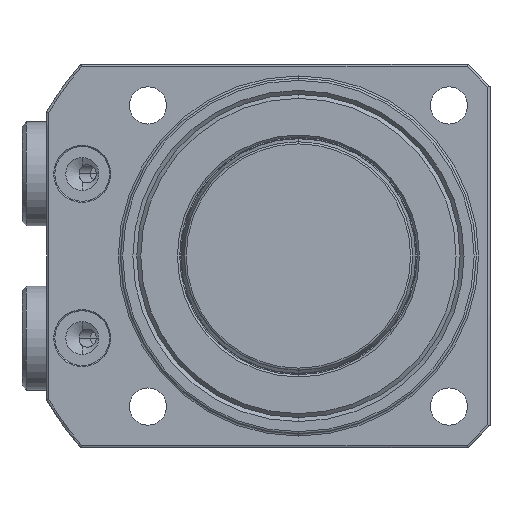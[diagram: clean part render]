
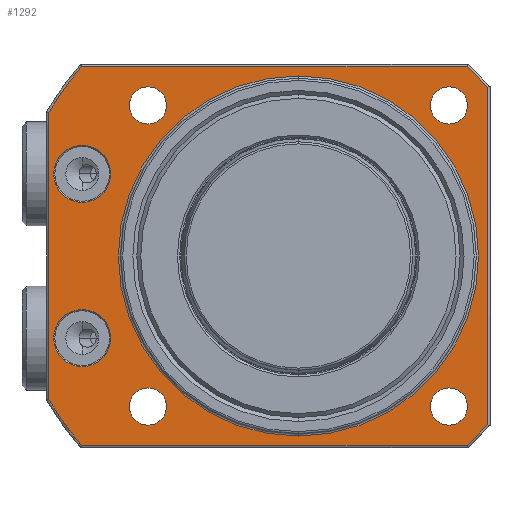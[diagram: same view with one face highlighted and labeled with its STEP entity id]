
A CAD part, front view. The second image highlights one B-rep face of the part: STEP entity #1292.
In plain terms, the highlighted planar face has unit normal (0, -1, 0) as drawn and (1, 0, 0) by its records, which use the part's own axes.
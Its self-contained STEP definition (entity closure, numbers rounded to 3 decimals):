
#909=PLANE('',#4691);
#949=FACE_BOUND('',#1773,.T.);
#950=FACE_BOUND('',#1774,.T.);
#951=FACE_BOUND('',#1775,.T.);
#952=FACE_BOUND('',#1776,.T.);
#953=FACE_BOUND('',#1777,.T.);
#954=FACE_BOUND('',#1778,.T.);
#955=FACE_BOUND('',#1779,.T.);
#956=FACE_BOUND('',#1780,.T.);
#1292=ADVANCED_FACE('',(#949,#950,#951,#952,#953,#954,#955,#956),#909,.F.);
#1773=EDGE_LOOP('',(#2981,#2982));
#1774=EDGE_LOOP('',(#2983,#2984));
#1775=EDGE_LOOP('',(#2985,#2986,#2987,#2988,#2989,#2990,#2991,#2992));
#1776=EDGE_LOOP('',(#2993,#2994));
#1777=EDGE_LOOP('',(#2995,#2996));
#1778=EDGE_LOOP('',(#2997,#2998));
#1779=EDGE_LOOP('',(#2999,#3000));
#1780=EDGE_LOOP('',(#3001,#3002));
#2042=LINE('',#7424,#2243);
#2043=LINE('',#7427,#2244);
#2044=LINE('',#7429,#2245);
#2045=LINE('',#7431,#2246);
#2046=LINE('',#7435,#2247);
#2047=LINE('',#7439,#2248);
#2243=VECTOR('',#5633,1.);
#2244=VECTOR('',#5634,1.);
#2245=VECTOR('',#5635,1.);
#2246=VECTOR('',#5636,1.);
#2247=VECTOR('',#5639,1.);
#2248=VECTOR('',#5642,1.);
#2981=ORIENTED_EDGE('',*,*,#3905,.T.);
#2982=ORIENTED_EDGE('',*,*,#4044,.T.);
#2983=ORIENTED_EDGE('',*,*,#3901,.T.);
#2984=ORIENTED_EDGE('',*,*,#4045,.T.);
#2985=ORIENTED_EDGE('',*,*,#4046,.T.);
#2986=ORIENTED_EDGE('',*,*,#4047,.T.);
#2987=ORIENTED_EDGE('',*,*,#4048,.T.);
#2988=ORIENTED_EDGE('',*,*,#4049,.T.);
#2989=ORIENTED_EDGE('',*,*,#4050,.T.);
#2990=ORIENTED_EDGE('',*,*,#4051,.T.);
#2991=ORIENTED_EDGE('',*,*,#4052,.T.);
#2992=ORIENTED_EDGE('',*,*,#4053,.T.);
#2993=ORIENTED_EDGE('',*,*,#4054,.T.);
#2994=ORIENTED_EDGE('',*,*,#3911,.T.);
#2995=ORIENTED_EDGE('',*,*,#4055,.T.);
#2996=ORIENTED_EDGE('',*,*,#3997,.T.);
#2997=ORIENTED_EDGE('',*,*,#4056,.T.);
#2998=ORIENTED_EDGE('',*,*,#4005,.T.);
#2999=ORIENTED_EDGE('',*,*,#4057,.T.);
#3000=ORIENTED_EDGE('',*,*,#4013,.T.);
#3001=ORIENTED_EDGE('',*,*,#4058,.T.);
#3002=ORIENTED_EDGE('',*,*,#4021,.T.);
#3478=VERTEX_POINT('',#6896);
#3479=VERTEX_POINT('',#6898);
#3482=VERTEX_POINT('',#6905);
#3483=VERTEX_POINT('',#6907);
#3488=VERTEX_POINT('',#6920);
#3489=VERTEX_POINT('',#6921);
#3558=VERTEX_POINT('',#7266);
#3559=VERTEX_POINT('',#7267);
#3566=VERTEX_POINT('',#7293);
#3567=VERTEX_POINT('',#7294);
#3574=VERTEX_POINT('',#7320);
#3575=VERTEX_POINT('',#7321);
#3582=VERTEX_POINT('',#7347);
#3583=VERTEX_POINT('',#7348);
#3594=VERTEX_POINT('',#7425);
#3595=VERTEX_POINT('',#7426);
#3596=VERTEX_POINT('',#7428);
#3597=VERTEX_POINT('',#7430);
#3598=VERTEX_POINT('',#7432);
#3599=VERTEX_POINT('',#7434);
#3600=VERTEX_POINT('',#7436);
#3601=VERTEX_POINT('',#7438);
#3901=EDGE_CURVE('',#3479,#3478,#4246,.T.);
#3905=EDGE_CURVE('',#3483,#3482,#4248,.T.);
#3911=EDGE_CURVE('',#3488,#3489,#4253,.T.);
#3997=EDGE_CURVE('',#3558,#3559,#4290,.T.);
#4005=EDGE_CURVE('',#3566,#3567,#4293,.T.);
#4013=EDGE_CURVE('',#3574,#3575,#4296,.T.);
#4021=EDGE_CURVE('',#3582,#3583,#4299,.T.);
#4044=EDGE_CURVE('',#3482,#3483,#4309,.T.);
#4045=EDGE_CURVE('',#3478,#3479,#4310,.T.);
#4046=EDGE_CURVE('',#3594,#3595,#2042,.T.);
#4047=EDGE_CURVE('',#3595,#3596,#2043,.T.);
#4048=EDGE_CURVE('',#3596,#3597,#2044,.T.);
#4049=EDGE_CURVE('',#3597,#3598,#2045,.T.);
#4050=EDGE_CURVE('',#3598,#3599,#4311,.T.);
#4051=EDGE_CURVE('',#3599,#3600,#2046,.T.);
#4052=EDGE_CURVE('',#3600,#3601,#4312,.T.);
#4053=EDGE_CURVE('',#3601,#3594,#2047,.T.);
#4054=EDGE_CURVE('',#3489,#3488,#4313,.T.);
#4055=EDGE_CURVE('',#3559,#3558,#4314,.T.);
#4056=EDGE_CURVE('',#3567,#3566,#4315,.T.);
#4057=EDGE_CURVE('',#3575,#3574,#4316,.T.);
#4058=EDGE_CURVE('',#3583,#3582,#4317,.T.);
#4246=CIRCLE('',#4582,5.2);
#4248=CIRCLE('',#4585,5.2);
#4253=CIRCLE('',#4592,32.9);
#4290=CIRCLE('',#4651,3.4);
#4293=CIRCLE('',#4656,3.4);
#4296=CIRCLE('',#4661,3.4);
#4299=CIRCLE('',#4666,3.4);
#4309=CIRCLE('',#4682,5.2);
#4310=CIRCLE('',#4683,5.2);
#4311=CIRCLE('',#4684,52.6);
#4312=CIRCLE('',#4685,52.6);
#4313=CIRCLE('',#4686,32.9);
#4314=CIRCLE('',#4687,3.4);
#4315=CIRCLE('',#4688,3.4);
#4316=CIRCLE('',#4689,3.4);
#4317=CIRCLE('',#4690,3.4);
#4582=AXIS2_PLACEMENT_3D('',#6897,#5368,#5369);
#4585=AXIS2_PLACEMENT_3D('',#6906,#5376,#5377);
#4592=AXIS2_PLACEMENT_3D('',#6919,#5391,#5392);
#4651=AXIS2_PLACEMENT_3D('',#7265,#5549,#5550);
#4656=AXIS2_PLACEMENT_3D('',#7292,#5563,#5564);
#4661=AXIS2_PLACEMENT_3D('',#7319,#5577,#5578);
#4666=AXIS2_PLACEMENT_3D('',#7346,#5591,#5592);
#4682=AXIS2_PLACEMENT_3D('',#7422,#5629,#5630);
#4683=AXIS2_PLACEMENT_3D('',#7423,#5631,#5632);
#4684=AXIS2_PLACEMENT_3D('',#7433,#5637,#5638);
#4685=AXIS2_PLACEMENT_3D('',#7437,#5640,#5641);
#4686=AXIS2_PLACEMENT_3D('',#7440,#5643,#5644);
#4687=AXIS2_PLACEMENT_3D('',#7441,#5645,#5646);
#4688=AXIS2_PLACEMENT_3D('',#7442,#5647,#5648);
#4689=AXIS2_PLACEMENT_3D('',#7443,#5649,#5650);
#4690=AXIS2_PLACEMENT_3D('',#7444,#5651,#5652);
#4691=AXIS2_PLACEMENT_3D('',#7445,#5653,#5654);
#5368=DIRECTION('',(-1.,0.,0.));
#5369=DIRECTION('',(0.,0.,1.));
#5376=DIRECTION('',(-1.,0.,0.));
#5377=DIRECTION('',(0.,0.,1.));
#5391=DIRECTION('',(-1.,0.,0.));
#5392=DIRECTION('',(0.,0.,1.));
#5549=DIRECTION('',(-1.,0.,0.));
#5550=DIRECTION('',(0.,0.,1.));
#5563=DIRECTION('',(-1.,0.,0.));
#5564=DIRECTION('',(0.,0.,1.));
#5577=DIRECTION('',(-1.,0.,0.));
#5578=DIRECTION('',(0.,0.,1.));
#5591=DIRECTION('',(-1.,0.,0.));
#5592=DIRECTION('',(0.,0.,1.));
#5629=DIRECTION('',(-1.,0.,0.));
#5630=DIRECTION('',(0.,0.,1.));
#5631=DIRECTION('',(-1.,0.,0.));
#5632=DIRECTION('',(0.,0.,1.));
#5633=DIRECTION('',(0.,0.707,0.707));
#5634=DIRECTION('',(0.,0.,1.));
#5635=DIRECTION('',(0.,-0.707,0.707));
#5636=DIRECTION('',(0.,-1.,0.));
#5637=DIRECTION('',(1.,0.,0.));
#5638=DIRECTION('',(0.,0.,1.));
#5639=DIRECTION('',(0.,0.,-1.));
#5640=DIRECTION('',(1.,0.,0.));
#5641=DIRECTION('',(0.,0.,1.));
#5642=DIRECTION('',(0.,1.,0.));
#5643=DIRECTION('',(-1.,0.,0.));
#5644=DIRECTION('',(0.,0.,1.));
#5645=DIRECTION('',(-1.,0.,0.));
#5646=DIRECTION('',(0.,0.,1.));
#5647=DIRECTION('',(-1.,0.,0.));
#5648=DIRECTION('',(0.,0.,1.));
#5649=DIRECTION('',(-1.,0.,0.));
#5650=DIRECTION('',(0.,0.,1.));
#5651=DIRECTION('',(-1.,0.,0.));
#5652=DIRECTION('',(0.,0.,1.));
#5653=DIRECTION('',(-1.,0.,0.));
#5654=DIRECTION('',(0.,0.,-1.));
#6896=CARTESIAN_POINT('',(0.,-39.5,20.2));
#6897=CARTESIAN_POINT('',(0.,-39.5,15.));
#6898=CARTESIAN_POINT('',(0.,-39.5,9.8));
#6905=CARTESIAN_POINT('',(0.,-39.5,-9.8));
#6906=CARTESIAN_POINT('',(0.,-39.5,-15.));
#6907=CARTESIAN_POINT('',(0.,-39.5,-20.2));
#6919=CARTESIAN_POINT('',(0.,0.,0.));
#6920=CARTESIAN_POINT('',(0.,0.,-32.9));
#6921=CARTESIAN_POINT('',(0.,0.,32.9));
#7265=CARTESIAN_POINT('',(0.,27.5,27.5));
#7266=CARTESIAN_POINT('',(0.,27.5,24.1));
#7267=CARTESIAN_POINT('',(0.,27.5,30.9));
#7292=CARTESIAN_POINT('',(0.,27.5,-27.5));
#7293=CARTESIAN_POINT('',(0.,27.5,-30.9));
#7294=CARTESIAN_POINT('',(0.,27.5,-24.1));
#7319=CARTESIAN_POINT('',(0.,-27.5,-27.5));
#7320=CARTESIAN_POINT('',(0.,-27.5,-30.9));
#7321=CARTESIAN_POINT('',(0.,-27.5,-24.1));
#7346=CARTESIAN_POINT('',(0.,-27.5,27.5));
#7347=CARTESIAN_POINT('',(0.,-27.5,24.1));
#7348=CARTESIAN_POINT('',(0.,-27.5,30.9));
#7422=CARTESIAN_POINT('',(0.,-39.5,-15.));
#7423=CARTESIAN_POINT('',(0.,-39.5,15.));
#7424=CARTESIAN_POINT('',(0.,34.717,-30.717));
#7425=CARTESIAN_POINT('',(0.,30.834,-34.6));
#7426=CARTESIAN_POINT('',(0.,34.6,-30.834));
#7427=CARTESIAN_POINT('',(0.,34.6,31.));
#7428=CARTESIAN_POINT('',(0.,34.6,30.834));
#7429=CARTESIAN_POINT('',(0.,30.717,34.717));
#7430=CARTESIAN_POINT('',(0.,30.834,34.6));
#7431=CARTESIAN_POINT('',(0.,-39.799,34.6));
#7432=CARTESIAN_POINT('',(0.,-39.618,34.6));
#7433=CARTESIAN_POINT('',(0.,0.,0.));
#7434=CARTESIAN_POINT('',(0.,-45.6,26.218));
#7435=CARTESIAN_POINT('',(0.,-45.6,-26.325));
#7436=CARTESIAN_POINT('',(0.,-45.6,-26.218));
#7437=CARTESIAN_POINT('',(0.,0.,0.));
#7438=CARTESIAN_POINT('',(0.,-39.618,-34.6));
#7439=CARTESIAN_POINT('',(0.,31.,-34.6));
#7440=CARTESIAN_POINT('',(0.,0.,0.));
#7441=CARTESIAN_POINT('',(0.,27.5,27.5));
#7442=CARTESIAN_POINT('',(0.,27.5,-27.5));
#7443=CARTESIAN_POINT('',(0.,-27.5,-27.5));
#7444=CARTESIAN_POINT('',(0.,-27.5,27.5));
#7445=CARTESIAN_POINT('',(0.,0.,0.));
